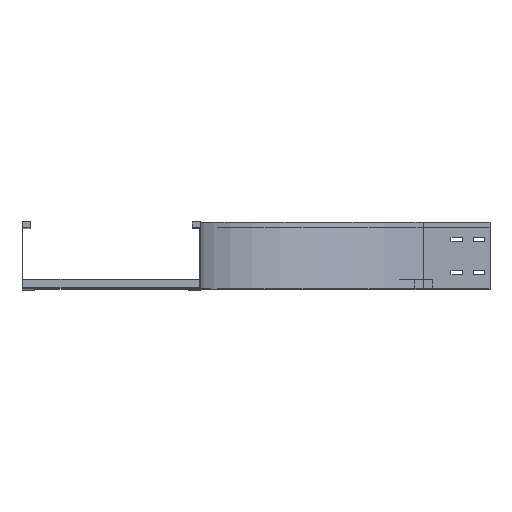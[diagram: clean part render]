
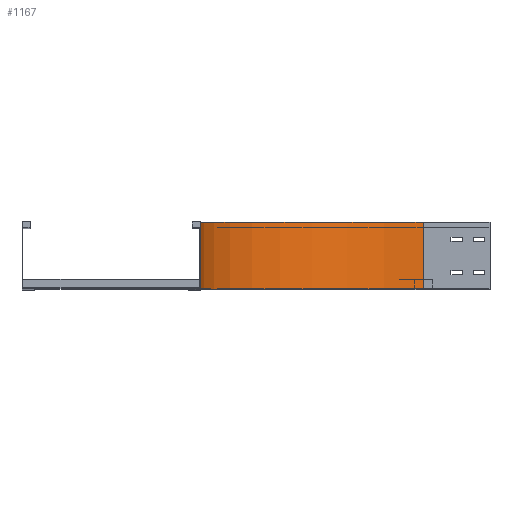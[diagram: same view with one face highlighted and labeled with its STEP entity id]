
A CAD part, top view. The second image highlights one B-rep face of the part: STEP entity #1167.
In plain terms, the highlighted cylindrical face has radius 500 mm (diameter 1000 mm), a partial arc.
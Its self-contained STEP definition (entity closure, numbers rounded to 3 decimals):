
#111 = DIRECTION ( 'NONE',  ( 0., -1., 0. ) ) ;
#122 = LINE ( 'NONE', #2535, #3422 ) ;
#176 = AXIS2_PLACEMENT_3D ( 'NONE', #1493, #111, #2131 ) ;
#313 = DIRECTION ( 'NONE',  ( 0., -1., 0. ) ) ;
#438 = AXIS2_PLACEMENT_3D ( 'NONE', #1889, #2548, #1822 ) ;
#502 = CARTESIAN_POINT ( 'NONE',  ( 0., 150., -150. ) ) ;
#791 = EDGE_LOOP ( 'NONE', ( #3785, #1737, #2219, #3345 ) ) ;
#831 = DIRECTION ( 'NONE',  ( 0., 1., 0. ) ) ;
#854 = EDGE_CURVE ( 'NONE', #4205, #2856, #891, .T. ) ;
#863 = CIRCLE ( 'NONE', #176, 500. ) ;
#891 = CIRCLE ( 'NONE', #2264, 500. ) ;
#1167 = ADVANCED_FACE ( 'NONE', ( #3858 ), #2508, .F. ) ;
#1188 = CARTESIAN_POINT ( 'NONE',  ( 500., 150., -650. ) ) ;
#1493 = CARTESIAN_POINT ( 'NONE',  ( 500., 150., -150. ) ) ;
#1538 = VERTEX_POINT ( 'NONE', #1188 ) ;
#1737 = ORIENTED_EDGE ( 'NONE', *, *, #2247, .F. ) ;
#1822 = DIRECTION ( 'NONE',  ( 0., 0., -1. ) ) ;
#1889 = CARTESIAN_POINT ( 'NONE',  ( 500., 0., -150. ) ) ;
#2078 = CARTESIAN_POINT ( 'NONE',  ( 500., 0., -650. ) ) ;
#2131 = DIRECTION ( 'NONE',  ( -1., 0., 0. ) ) ;
#2198 = CARTESIAN_POINT ( 'NONE',  ( 500., 0., -650. ) ) ;
#2219 = ORIENTED_EDGE ( 'NONE', *, *, #854, .T. ) ;
#2247 = EDGE_CURVE ( 'NONE', #4205, #3762, #122, .T. ) ;
#2264 = AXIS2_PLACEMENT_3D ( 'NONE', #2979, #313, #3561 ) ;
#2508 = CYLINDRICAL_SURFACE ( 'NONE', #438, 500. ) ;
#2535 = CARTESIAN_POINT ( 'NONE',  ( 0., 0., -150. ) ) ;
#2548 = DIRECTION ( 'NONE',  ( 0., -1., 0. ) ) ;
#2856 = VERTEX_POINT ( 'NONE', #2198 ) ;
#2979 = CARTESIAN_POINT ( 'NONE',  ( 500., 0., -150. ) ) ;
#3345 = ORIENTED_EDGE ( 'NONE', *, *, #3608, .T. ) ;
#3391 = DIRECTION ( 'NONE',  ( 0., 1., 0. ) ) ;
#3422 = VECTOR ( 'NONE', #831, 1000. ) ;
#3561 = DIRECTION ( 'NONE',  ( -1., 0., 0. ) ) ;
#3608 = EDGE_CURVE ( 'NONE', #2856, #1538, #3750, .T. ) ;
#3651 = EDGE_CURVE ( 'NONE', #3762, #1538, #863, .T. ) ;
#3689 = VECTOR ( 'NONE', #3391, 1000. ) ;
#3750 = LINE ( 'NONE', #2078, #3689 ) ;
#3762 = VERTEX_POINT ( 'NONE', #502 ) ;
#3785 = ORIENTED_EDGE ( 'NONE', *, *, #3651, .F. ) ;
#3858 = FACE_OUTER_BOUND ( 'NONE', #791, .T. ) ;
#4192 = CARTESIAN_POINT ( 'NONE',  ( 0., 0., -150. ) ) ;
#4205 = VERTEX_POINT ( 'NONE', #4192 ) ;
